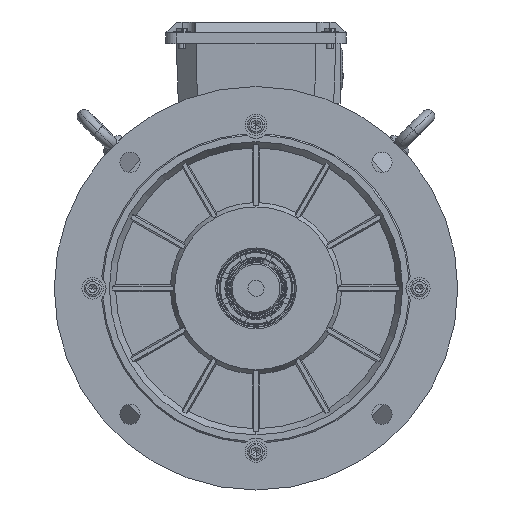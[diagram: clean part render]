
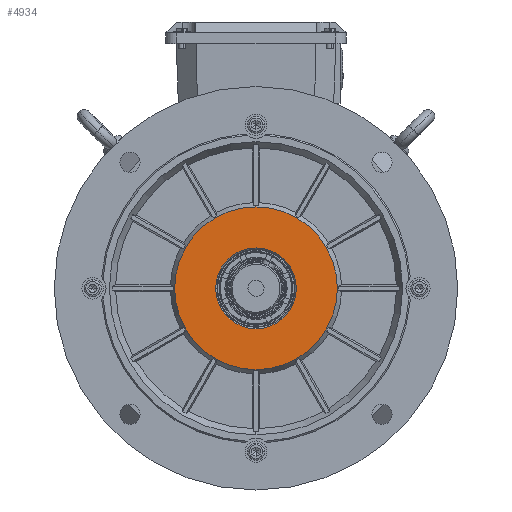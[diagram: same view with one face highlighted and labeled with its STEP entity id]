
A CAD part, left-side view. The second image highlights one B-rep face of the part: STEP entity #4934.
In plain terms, the highlighted planar face has unit normal (-1, 0, 0).
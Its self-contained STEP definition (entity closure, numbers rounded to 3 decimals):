
#4934 = ADVANCED_FACE ( 'NONE', ( #97514, #99044 ), #145841, .F. ) ;
#7773 = CARTESIAN_POINT ( 'NONE',  ( -152.99, -2.924, 58.512 ) ) ;
#11562 = AXIS2_PLACEMENT_3D ( 'NONE', #59414, #104737, #46395 ) ;
#19861 = AXIS2_PLACEMENT_3D ( 'NONE', #86745, #109040, #40708 ) ;
#28729 = CIRCLE ( 'NONE', #112094, 60.5 ) ;
#29198 = VERTEX_POINT ( 'NONE', #43927 ) ;
#33497 = ORIENTED_EDGE ( 'NONE', *, *, #99915, .T. ) ;
#40482 = EDGE_LOOP ( 'NONE', ( #60874, #150988 ) ) ;
#40708 = DIRECTION ( 'NONE',  ( 0., 1., 0. ) ) ;
#43927 = CARTESIAN_POINT ( 'NONE',  ( -152.99, -2.924, -31.988 ) ) ;
#44797 = ORIENTED_EDGE ( 'NONE', *, *, #113083, .T. ) ;
#46395 = DIRECTION ( 'NONE',  ( 0., 0., 1. ) ) ;
#48853 = EDGE_CURVE ( 'NONE', #93053, #29198, #129235, .T. ) ;
#59414 = CARTESIAN_POINT ( 'NONE',  ( -152.99, -2.924, -1.988 ) ) ;
#60874 = ORIENTED_EDGE ( 'NONE', *, *, #48853, .F. ) ;
#61405 = AXIS2_PLACEMENT_3D ( 'NONE', #103002, #82214, #139022 ) ;
#66344 = CIRCLE ( 'NONE', #61405, 60.5 ) ;
#69518 = CARTESIAN_POINT ( 'NONE',  ( -152.99, -2.924, -62.488 ) ) ;
#69607 = CARTESIAN_POINT ( 'NONE',  ( -152.99, -2.924, -1.988 ) ) ;
#77477 = VERTEX_POINT ( 'NONE', #7773 ) ;
#80806 = EDGE_LOOP ( 'NONE', ( #44797, #33497 ) ) ;
#81333 = DIRECTION ( 'NONE',  ( 0., 0., 1. ) ) ;
#82214 = DIRECTION ( 'NONE',  ( -1., 0., 0. ) ) ;
#86745 = CARTESIAN_POINT ( 'NONE',  ( -152.99, 57.576, -1.988 ) ) ;
#86943 = AXIS2_PLACEMENT_3D ( 'NONE', #89826, #113638, #81333 ) ;
#89826 = CARTESIAN_POINT ( 'NONE',  ( -152.99, -2.924, -1.988 ) ) ;
#92697 = CARTESIAN_POINT ( 'NONE',  ( -152.99, -2.924, 28.012 ) ) ;
#93053 = VERTEX_POINT ( 'NONE', #92697 ) ;
#97514 = FACE_OUTER_BOUND ( 'NONE', #80806, .T. ) ;
#99044 = FACE_BOUND ( 'NONE', #40482, .T. ) ;
#99915 = EDGE_CURVE ( 'NONE', #77477, #134144, #28729, .T. ) ;
#103002 = CARTESIAN_POINT ( 'NONE',  ( -152.99, -2.924, -1.988 ) ) ;
#104737 = DIRECTION ( 'NONE',  ( -1., 0., 0. ) ) ;
#109040 = DIRECTION ( 'NONE',  ( 1., 0., 0. ) ) ;
#112094 = AXIS2_PLACEMENT_3D ( 'NONE', #69607, #115677, #151728 ) ;
#113083 = EDGE_CURVE ( 'NONE', #134144, #77477, #66344, .T. ) ;
#113638 = DIRECTION ( 'NONE',  ( -1., 0., 0. ) ) ;
#115677 = DIRECTION ( 'NONE',  ( -1., 0., 0. ) ) ;
#128659 = CIRCLE ( 'NONE', #86943, 30. ) ;
#129235 = CIRCLE ( 'NONE', #11562, 30. ) ;
#129891 = EDGE_CURVE ( 'NONE', #29198, #93053, #128659, .T. ) ;
#134144 = VERTEX_POINT ( 'NONE', #69518 ) ;
#139022 = DIRECTION ( 'NONE',  ( 0., 0., 1. ) ) ;
#145841 = PLANE ( 'NONE',  #19861 ) ;
#150988 = ORIENTED_EDGE ( 'NONE', *, *, #129891, .F. ) ;
#151728 = DIRECTION ( 'NONE',  ( 0., 0., 1. ) ) ;
